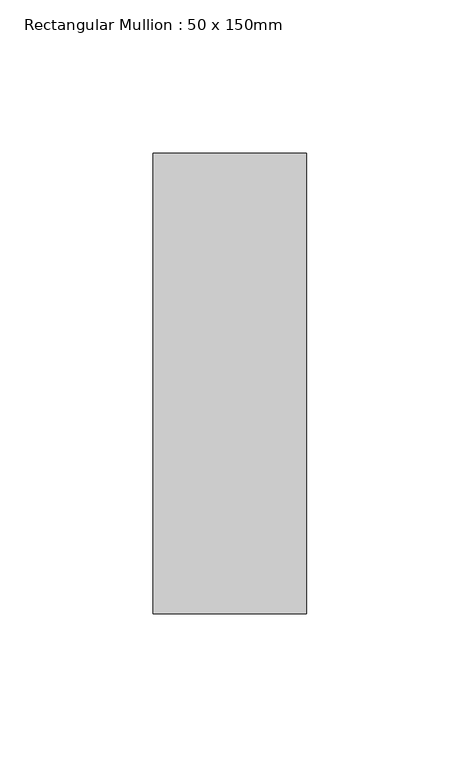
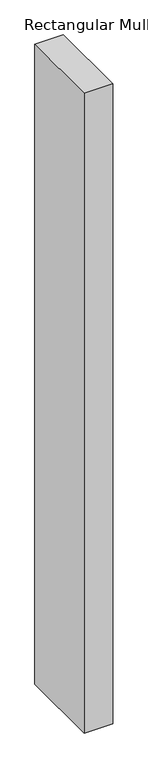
"""IFC4 building model written with IfcOpenShell, lengths in millimetres: member geometry, Rectangular Mullion : 50 x 150mm."""

from ifc_helpers import new_model, si_unit, frame, origin, place, context, project, spatial, polyline, outline, extrude, source, transform, mapped, element, save


def rectangular_mullion_50_x_150mm_3bb01b1a(model_context):
    return source(origin(), model_context, "Body", "SweptSolid", [
        extrude(outline(polyline([(0.0, 75.0), (0.0, -75.0), (-50.0, -75.0), (-50.0, 75.0), (0.0, 75.0)])), frame((0.0, 0.0, -1186.0538876), z_axis=(0.0, 0.0, 1.0), x_axis=(1.0, 0.0, 0.0)), (0.0, 0.0, 1.0), 1186.0538876),
    ])


if __name__ == "__main__":
    model = new_model("IFC4")
    model_context = context("Model", 3, world=origin())
    ifc_project = project(units=[si_unit("LENGTHUNIT", "METRE", prefix="MILLI")], contexts=[model_context])
    site = spatial("IfcSite", under=ifc_project)
    building = spatial("IfcBuilding", under=site)
    placement = place(None, origin())
    rectangular_mullion_50_x_150mm_shape = rectangular_mullion_50_x_150mm_3bb01b1a(model_context)
    element("IfcMember", 1, ObjectType="Rectangular Mullion : 50 x 150mm", at=placement, inside=building, context=model_context, shape_type="MappedRepresentation", body=[
        mapped(rectangular_mullion_50_x_150mm_shape, transform((0.0, 0.0, 0.0), x_axis=(1.0, 0.0, 0.0), y_axis=(0.0, 1.0, 0.0), z_axis=(0.0, 0.0, 1.0))),
    ])
    save(model, "model.ifc")
